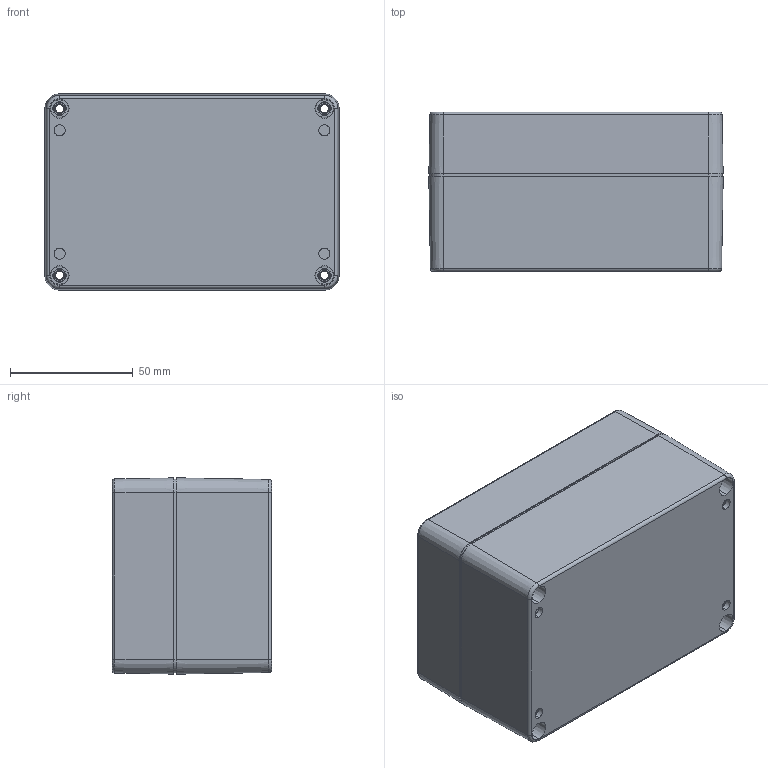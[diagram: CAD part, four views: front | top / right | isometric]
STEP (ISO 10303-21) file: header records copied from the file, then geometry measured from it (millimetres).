
FILE_DESCRIPTION (( 'STEP AP203' ), '1' );
FILE_NAME ('SE-215-0-0.STEP', '2020-04-01T11:37:27', ( '' ), ( '' ), 'SwSTEP 2.0', 'SolidWorks 2020', '' );
FILE_SCHEMA (( 'CONFIG_CONTROL_DESIGN' ));
Length unit declared in the file: millimetre
Products named in the file (4): SE-214_pcb_sample; SE-215-0-0; SE-217-P-1; SE-214-P-2
Assembly tree (3 placements, depth 2):
  SE-215-0-0
    SE-214-P-2
    SE-217-P-1
    SE-214_pcb_sample
Bounding box: 120.07 x 64.9 x 80.07 mm (x, y, z)
Volume: 156358.7 mm3; surface area: 117962.7 mm2
Topology: 11 solids, 11 shells, 1388 faces, 3663 edges, 2378 vertices
Faces by surface type: bspline 456, cylinder 364, plane 315, cone 245, torus 8
Entity records: 48815 total; most frequent: CARTESIAN_POINT 16455, ORIENTED_EDGE 7326, DIRECTION 5841, EDGE_CURVE 3663, VERTEX_POINT 2378, AXIS2_PLACEMENT_3D 2168, EDGE_LOOP 1529, LINE 1505
